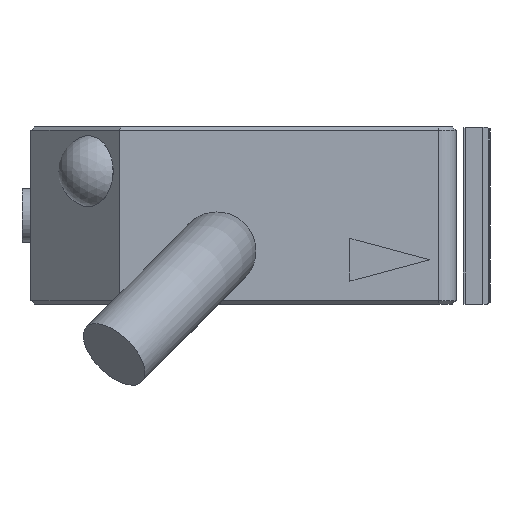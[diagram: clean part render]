
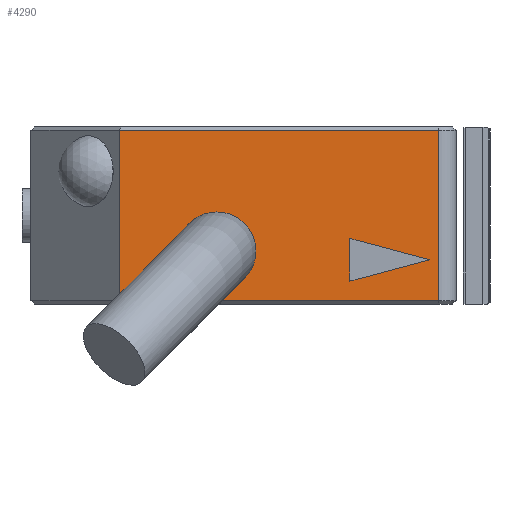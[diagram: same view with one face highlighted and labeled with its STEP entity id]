
A CAD part, left-side view. The second image highlights one B-rep face of the part: STEP entity #4290.
In plain terms, the highlighted planar face has unit normal (-1, 0, 0).
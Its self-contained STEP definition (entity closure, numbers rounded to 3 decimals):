
#268=CIRCLE('',#4756,2.2);
#269=CIRCLE('',#4757,2.2);
#520=FACE_BOUND('',#920,.T.);
#521=FACE_BOUND('',#921,.T.);
#663=FACE_OUTER_BOUND('',#919,.T.);
#919=EDGE_LOOP('',(#3479,#3480,#3481,#3482));
#920=EDGE_LOOP('',(#3483,#3484));
#921=EDGE_LOOP('',(#3485,#3486,#3487));
#1329=LINE('',#7230,#1782);
#1331=LINE('',#7234,#1784);
#1332=LINE('',#7236,#1785);
#1333=LINE('',#7237,#1786);
#1334=LINE('',#7240,#1787);
#1335=LINE('',#7242,#1788);
#1336=LINE('',#7243,#1789);
#1782=VECTOR('',#5601,1000.);
#1784=VECTOR('',#5605,1000.);
#1785=VECTOR('',#5606,1000.);
#1786=VECTOR('',#5607,1000.);
#1787=VECTOR('',#5608,1000.);
#1788=VECTOR('',#5609,1000.);
#1789=VECTOR('',#5610,1000.);
#2181=VERTEX_POINT('',#7211);
#2182=VERTEX_POINT('',#7212);
#2188=VERTEX_POINT('',#7227);
#2189=VERTEX_POINT('',#7229);
#2190=VERTEX_POINT('',#7233);
#2191=VERTEX_POINT('',#7235);
#2192=VERTEX_POINT('',#7238);
#2193=VERTEX_POINT('',#7239);
#2194=VERTEX_POINT('',#7241);
#2630=EDGE_CURVE('',#2181,#2182,#268,.T.);
#2632=EDGE_CURVE('',#2182,#2181,#269,.T.);
#2638=EDGE_CURVE('',#2189,#2188,#1329,.T.);
#2640=EDGE_CURVE('',#2188,#2190,#1331,.T.);
#2641=EDGE_CURVE('',#2190,#2191,#1332,.T.);
#2642=EDGE_CURVE('',#2191,#2189,#1333,.T.);
#2643=EDGE_CURVE('',#2192,#2193,#1334,.T.);
#2644=EDGE_CURVE('',#2194,#2192,#1335,.T.);
#2645=EDGE_CURVE('',#2193,#2194,#1336,.T.);
#3479=ORIENTED_EDGE('',*,*,#2638,.T.);
#3480=ORIENTED_EDGE('',*,*,#2640,.T.);
#3481=ORIENTED_EDGE('',*,*,#2641,.T.);
#3482=ORIENTED_EDGE('',*,*,#2642,.T.);
#3483=ORIENTED_EDGE('',*,*,#2630,.F.);
#3484=ORIENTED_EDGE('',*,*,#2632,.F.);
#3485=ORIENTED_EDGE('',*,*,#2643,.F.);
#3486=ORIENTED_EDGE('',*,*,#2644,.F.);
#3487=ORIENTED_EDGE('',*,*,#2645,.F.);
#4088=PLANE('',#4762);
#4290=ADVANCED_FACE('',(#663,#520,#521),#4088,.F.);
#4756=AXIS2_PLACEMENT_3D('',#7213,#5585,#5586);
#4757=AXIS2_PLACEMENT_3D('',#7215,#5588,#5589);
#4762=AXIS2_PLACEMENT_3D('',#7232,#5603,#5604);
#5585=DIRECTION('center_axis',(-1.,0.,0.));
#5586=DIRECTION('ref_axis',(0.,0.,-1.));
#5588=DIRECTION('center_axis',(-1.,0.,0.));
#5589=DIRECTION('ref_axis',(0.,0.,-1.));
#5601=DIRECTION('',(0.,0.,-1.));
#5603=DIRECTION('center_axis',(1.,0.,0.));
#5604=DIRECTION('ref_axis',(0.,0.,-1.));
#5605=DIRECTION('',(0.,-1.,0.));
#5606=DIRECTION('',(0.,0.,1.));
#5607=DIRECTION('',(0.,1.,0.));
#5608=DIRECTION('',(0.,-0.966,0.259));
#5609=DIRECTION('',(0.,0.,-1.));
#5610=DIRECTION('',(0.,0.966,0.259));
#7211=CARTESIAN_POINT('',(0.,13.5,0.8));
#7212=CARTESIAN_POINT('',(0.,13.5,5.2));
#7213=CARTESIAN_POINT('Origin',(0.,13.5,3.));
#7215=CARTESIAN_POINT('Origin',(0.,13.5,3.));
#7227=CARTESIAN_POINT('',(0.,19.,0.2));
#7229=CARTESIAN_POINT('',(0.,19.,9.8));
#7230=CARTESIAN_POINT('',(0.,19.,10.));
#7232=CARTESIAN_POINT('Origin',(0.,0.,10.));
#7233=CARTESIAN_POINT('',(0.,1.,0.2));
#7234=CARTESIAN_POINT('',(0.,1.,0.2));
#7235=CARTESIAN_POINT('',(0.,1.,9.8));
#7236=CARTESIAN_POINT('',(0.,1.,10.));
#7237=CARTESIAN_POINT('',(0.,0.,9.8));
#7238=CARTESIAN_POINT('',(0.,6.,1.294));
#7239=CARTESIAN_POINT('',(0.,1.5,2.5));
#7240=CARTESIAN_POINT('',(0.,6.,1.294));
#7241=CARTESIAN_POINT('',(0.,6.,3.706));
#7242=CARTESIAN_POINT('',(0.,6.,3.706));
#7243=CARTESIAN_POINT('',(0.,1.5,2.5));
